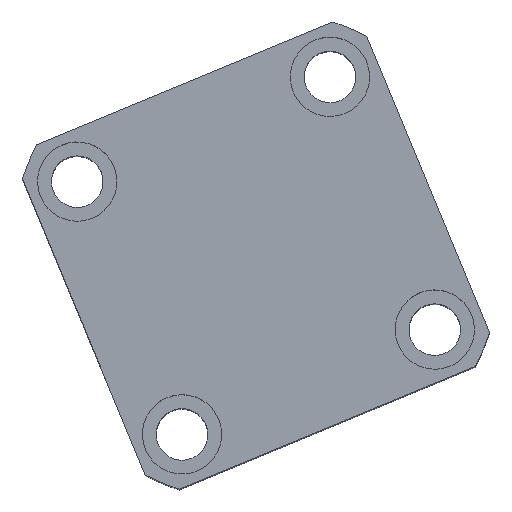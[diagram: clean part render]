
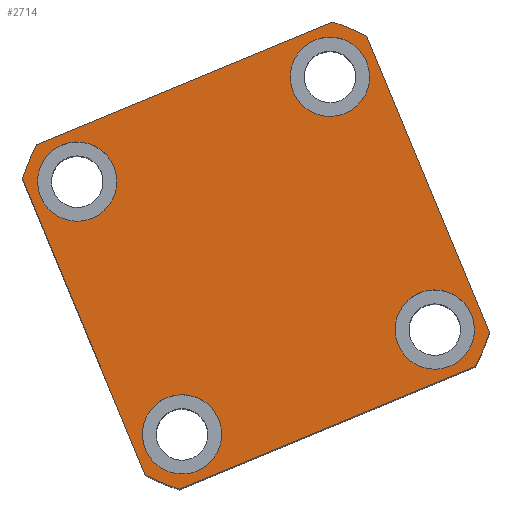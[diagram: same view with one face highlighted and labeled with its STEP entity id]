
A CAD part, top view. The second image highlights one B-rep face of the part: STEP entity #2714.
In plain terms, the highlighted planar face has unit normal (0, 0, 1) as drawn and (0, 0, -1) by its records, which use the part's own axes.
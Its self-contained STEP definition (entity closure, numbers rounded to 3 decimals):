
#97 = DIRECTION ( 'NONE',  ( -1., 0., 0. ) ) ;
#162 = CIRCLE ( 'NONE', #1010, 62. ) ;
#633 = CARTESIAN_POINT ( 'NONE',  ( -34.5, -34.5, 0. ) ) ;
#745 = DIRECTION ( 'NONE',  ( 0., -1., 0. ) ) ;
#1010 = AXIS2_PLACEMENT_3D ( 'NONE', #12218, #1881, #13950 ) ;
#1214 = DIRECTION ( 'NONE',  ( -1., 0., 0. ) ) ;
#1273 = ORIENTED_EDGE ( 'NONE', *, *, #15242, .F. ) ;
#1480 = FACE_OUTER_BOUND ( 'NONE', #1895, .T. ) ;
#1574 = DIRECTION ( 'NONE',  ( 0., 0., -1. ) ) ;
#1588 = CARTESIAN_POINT ( 'NONE',  ( -47., 47., 0. ) ) ;
#1599 = CARTESIAN_POINT ( 'NONE',  ( -24.5, -34.5, 0. ) ) ;
#1732 = EDGE_CURVE ( 'NONE', #11434, #14316, #8525, .T. ) ;
#1741 = AXIS2_PLACEMENT_3D ( 'NONE', #15357, #7074, #19138 ) ;
#1881 = DIRECTION ( 'NONE',  ( 0., 0., 1. ) ) ;
#1895 = EDGE_LOOP ( 'NONE', ( #4155, #18653, #7302, #1273, #8360, #21386, #13056, #10342 ) ) ;
#1911 = AXIS2_PLACEMENT_3D ( 'NONE', #4722, #16787, #6459 ) ;
#2026 = FACE_BOUND ( 'NONE', #7774, .T. ) ;
#2042 = CIRCLE ( 'NONE', #17713, 10. ) ;
#2374 = DIRECTION ( 'NONE',  ( -1., 0., 0. ) ) ;
#2714 = ADVANCED_FACE ( 'NONE', ( #2026, #15235, #11188, #6086, #1480 ), #17406, .F. ) ;
#2990 = VERTEX_POINT ( 'NONE', #19731 ) ;
#3134 = EDGE_CURVE ( 'NONE', #20851, #21237, #13617, .T. ) ;
#3341 = DIRECTION ( 'NONE',  ( -1., 0., 0. ) ) ;
#3683 = DIRECTION ( 'NONE',  ( -1., 0., 0. ) ) ;
#3828 = CARTESIAN_POINT ( 'NONE',  ( 34.5, 34.5, 0. ) ) ;
#3870 = VECTOR ( 'NONE', #3341, 1000. ) ;
#4155 = ORIENTED_EDGE ( 'NONE', *, *, #16515, .F. ) ;
#4315 = DIRECTION ( 'NONE',  ( 0., 1., 0. ) ) ;
#4437 = EDGE_LOOP ( 'NONE', ( #11016, #9978 ) ) ;
#4493 = DIRECTION ( 'NONE',  ( 0., 0., -1. ) ) ;
#4671 = CIRCLE ( 'NONE', #11881, 62. ) ;
#4672 = EDGE_CURVE ( 'NONE', #13772, #12969, #9039, .T. ) ;
#4722 = CARTESIAN_POINT ( 'NONE',  ( 34.5, 34.5, 0. ) ) ;
#4857 = EDGE_CURVE ( 'NONE', #12409, #9898, #13062, .T. ) ;
#4972 = ORIENTED_EDGE ( 'NONE', *, *, #4857, .F. ) ;
#4986 = CARTESIAN_POINT ( 'NONE',  ( 24.5, -34.5, 0. ) ) ;
#5002 = VERTEX_POINT ( 'NONE', #4986 ) ;
#5193 = EDGE_LOOP ( 'NONE', ( #6091, #4972 ) ) ;
#5754 = AXIS2_PLACEMENT_3D ( 'NONE', #3828, #7062, #3683 ) ;
#5958 = DIRECTION ( 'NONE',  ( 1., 0., 0. ) ) ;
#6086 = FACE_BOUND ( 'NONE', #5193, .T. ) ;
#6091 = ORIENTED_EDGE ( 'NONE', *, *, #20623, .F. ) ;
#6139 = CIRCLE ( 'NONE', #8001, 10. ) ;
#6155 = CARTESIAN_POINT ( 'NONE',  ( -34.5, -34.5, 0. ) ) ;
#6229 = AXIS2_PLACEMENT_3D ( 'NONE', #18323, #7990, #20064 ) ;
#6329 = DIRECTION ( 'NONE',  ( 0., 0., 1. ) ) ;
#6459 = DIRECTION ( 'NONE',  ( -1., 0., 0. ) ) ;
#6814 = EDGE_CURVE ( 'NONE', #14316, #11434, #11946, .T. ) ;
#7062 = DIRECTION ( 'NONE',  ( 0., 0., -1. ) ) ;
#7074 = DIRECTION ( 'NONE',  ( 0., 0., 1. ) ) ;
#7272 = AXIS2_PLACEMENT_3D ( 'NONE', #633, #12697, #2374 ) ;
#7302 = ORIENTED_EDGE ( 'NONE', *, *, #20709, .F. ) ;
#7517 = EDGE_CURVE ( 'NONE', #21237, #20851, #7634, .T. ) ;
#7634 = CIRCLE ( 'NONE', #7272, 10. ) ;
#7774 = EDGE_LOOP ( 'NONE', ( #11364, #9555 ) ) ;
#7843 = EDGE_CURVE ( 'NONE', #18394, #16270, #4671, .T. ) ;
#7878 = DIRECTION ( 'NONE',  ( -1., 0., 0. ) ) ;
#7990 = DIRECTION ( 'NONE',  ( 0., 0., 1. ) ) ;
#8001 = AXIS2_PLACEMENT_3D ( 'NONE', #20783, #10416, #97 ) ;
#8055 = VERTEX_POINT ( 'NONE', #15363 ) ;
#8258 = LINE ( 'NONE', #14619, #16892 ) ;
#8299 = CIRCLE ( 'NONE', #18835, 10. ) ;
#8360 = ORIENTED_EDGE ( 'NONE', *, *, #7843, .F. ) ;
#8525 = CIRCLE ( 'NONE', #5754, 10. ) ;
#9039 = CIRCLE ( 'NONE', #6229, 62. ) ;
#9120 = VERTEX_POINT ( 'NONE', #16985 ) ;
#9124 = VERTEX_POINT ( 'NONE', #20463 ) ;
#9151 = EDGE_CURVE ( 'NONE', #20030, #13772, #17629, .T. ) ;
#9555 = ORIENTED_EDGE ( 'NONE', *, *, #7517, .F. ) ;
#9686 = AXIS2_PLACEMENT_3D ( 'NONE', #11895, #1574, #13635 ) ;
#9898 = VERTEX_POINT ( 'NONE', #9904 ) ;
#9904 = CARTESIAN_POINT ( 'NONE',  ( -44.5, 34.5, 0. ) ) ;
#9963 = CARTESIAN_POINT ( 'NONE',  ( 0., 0., 0. ) ) ;
#9978 = ORIENTED_EDGE ( 'NONE', *, *, #6814, .F. ) ;
#10342 = ORIENTED_EDGE ( 'NONE', *, *, #9151, .F. ) ;
#10416 = DIRECTION ( 'NONE',  ( 0., 0., -1. ) ) ;
#10660 = CIRCLE ( 'NONE', #15821, 62. ) ;
#10682 = VECTOR ( 'NONE', #5958, 1000. ) ;
#11016 = ORIENTED_EDGE ( 'NONE', *, *, #1732, .F. ) ;
#11188 = FACE_BOUND ( 'NONE', #4437, .T. ) ;
#11364 = ORIENTED_EDGE ( 'NONE', *, *, #3134, .F. ) ;
#11434 = VERTEX_POINT ( 'NONE', #14638 ) ;
#11542 = DIRECTION ( 'NONE',  ( 0., 0., -1. ) ) ;
#11694 = DIRECTION ( 'NONE',  ( 1., 0., 0. ) ) ;
#11881 = AXIS2_PLACEMENT_3D ( 'NONE', #16661, #6329, #18384 ) ;
#11895 = CARTESIAN_POINT ( 'NONE',  ( -34.5, 34.5, 0. ) ) ;
#11946 = CIRCLE ( 'NONE', #1911, 10. ) ;
#12089 = CARTESIAN_POINT ( 'NONE',  ( -40.435, 47., 0. ) ) ;
#12155 = EDGE_LOOP ( 'NONE', ( #16032, #18282 ) ) ;
#12218 = CARTESIAN_POINT ( 'NONE',  ( 0., 0., 0. ) ) ;
#12409 = VERTEX_POINT ( 'NONE', #14017 ) ;
#12697 = DIRECTION ( 'NONE',  ( 0., 0., -1. ) ) ;
#12969 = VERTEX_POINT ( 'NONE', #20268 ) ;
#13056 = ORIENTED_EDGE ( 'NONE', *, *, #4672, .F. ) ;
#13062 = CIRCLE ( 'NONE', #9686, 10. ) ;
#13184 = CARTESIAN_POINT ( 'NONE',  ( 44.5, 34.5, 0. ) ) ;
#13273 = EDGE_CURVE ( 'NONE', #5002, #2990, #8299, .T. ) ;
#13578 = CARTESIAN_POINT ( 'NONE',  ( -44.5, -34.5, 0. ) ) ;
#13617 = CIRCLE ( 'NONE', #17942, 10. ) ;
#13635 = DIRECTION ( 'NONE',  ( -1., 0., 0. ) ) ;
#13745 = EDGE_CURVE ( 'NONE', #2990, #5002, #6139, .T. ) ;
#13772 = VERTEX_POINT ( 'NONE', #12089 ) ;
#13950 = DIRECTION ( 'NONE',  ( 1., 0., 0. ) ) ;
#14017 = CARTESIAN_POINT ( 'NONE',  ( -24.5, 34.5, 0. ) ) ;
#14316 = VERTEX_POINT ( 'NONE', #13184 ) ;
#14619 = CARTESIAN_POINT ( 'NONE',  ( 47., 47., 0. ) ) ;
#14638 = CARTESIAN_POINT ( 'NONE',  ( 24.5, 34.5, 0. ) ) ;
#14672 = CARTESIAN_POINT ( 'NONE',  ( 40.435, 47., 0. ) ) ;
#14797 = CARTESIAN_POINT ( 'NONE',  ( 34.5, -34.5, 0. ) ) ;
#15235 = FACE_BOUND ( 'NONE', #12155, .T. ) ;
#15242 = EDGE_CURVE ( 'NONE', #16270, #8055, #15835, .T. ) ;
#15357 = CARTESIAN_POINT ( 'NONE',  ( 0., 0., 0. ) ) ;
#15363 = CARTESIAN_POINT ( 'NONE',  ( 40.435, -47., 0. ) ) ;
#15821 = AXIS2_PLACEMENT_3D ( 'NONE', #9963, #22058, #11694 ) ;
#15835 = LINE ( 'NONE', #18087, #10682 ) ;
#16032 = ORIENTED_EDGE ( 'NONE', *, *, #13273, .F. ) ;
#16270 = VERTEX_POINT ( 'NONE', #20074 ) ;
#16515 = EDGE_CURVE ( 'NONE', #9120, #20030, #162, .T. ) ;
#16556 = DIRECTION ( 'NONE',  ( -1., 0., 0. ) ) ;
#16661 = CARTESIAN_POINT ( 'NONE',  ( 0., 0., 0. ) ) ;
#16787 = DIRECTION ( 'NONE',  ( 0., 0., -1. ) ) ;
#16846 = EDGE_CURVE ( 'NONE', #9124, #9120, #8258, .T. ) ;
#16892 = VECTOR ( 'NONE', #4315, 1000. ) ;
#16985 = CARTESIAN_POINT ( 'NONE',  ( 47., 40.435, 0. ) ) ;
#17406 = PLANE ( 'NONE',  #1741 ) ;
#17629 = LINE ( 'NONE', #1588, #3870 ) ;
#17713 = AXIS2_PLACEMENT_3D ( 'NONE', #21899, #11542, #1214 ) ;
#17942 = AXIS2_PLACEMENT_3D ( 'NONE', #6155, #18218, #7878 ) ;
#17962 = LINE ( 'NONE', #19821, #22006 ) ;
#18087 = CARTESIAN_POINT ( 'NONE',  ( -47., -47., 0. ) ) ;
#18218 = DIRECTION ( 'NONE',  ( 0., 0., -1. ) ) ;
#18282 = ORIENTED_EDGE ( 'NONE', *, *, #13745, .F. ) ;
#18323 = CARTESIAN_POINT ( 'NONE',  ( 0., 0., 0. ) ) ;
#18384 = DIRECTION ( 'NONE',  ( 1., 0., 0. ) ) ;
#18394 = VERTEX_POINT ( 'NONE', #20525 ) ;
#18653 = ORIENTED_EDGE ( 'NONE', *, *, #16846, .F. ) ;
#18835 = AXIS2_PLACEMENT_3D ( 'NONE', #14797, #4493, #16556 ) ;
#19138 = DIRECTION ( 'NONE',  ( 1., 0., 0. ) ) ;
#19731 = CARTESIAN_POINT ( 'NONE',  ( 44.5, -34.5, 0. ) ) ;
#19821 = CARTESIAN_POINT ( 'NONE',  ( -47., 47., 0. ) ) ;
#20030 = VERTEX_POINT ( 'NONE', #14672 ) ;
#20064 = DIRECTION ( 'NONE',  ( 1., 0., 0. ) ) ;
#20074 = CARTESIAN_POINT ( 'NONE',  ( -40.435, -47., 0. ) ) ;
#20268 = CARTESIAN_POINT ( 'NONE',  ( -47., 40.435, 0. ) ) ;
#20463 = CARTESIAN_POINT ( 'NONE',  ( 47., -40.435, 0. ) ) ;
#20525 = CARTESIAN_POINT ( 'NONE',  ( -47., -40.435, 0. ) ) ;
#20623 = EDGE_CURVE ( 'NONE', #9898, #12409, #2042, .T. ) ;
#20709 = EDGE_CURVE ( 'NONE', #8055, #9124, #10660, .T. ) ;
#20783 = CARTESIAN_POINT ( 'NONE',  ( 34.5, -34.5, 0. ) ) ;
#20851 = VERTEX_POINT ( 'NONE', #13578 ) ;
#21237 = VERTEX_POINT ( 'NONE', #1599 ) ;
#21386 = ORIENTED_EDGE ( 'NONE', *, *, #21774, .F. ) ;
#21774 = EDGE_CURVE ( 'NONE', #12969, #18394, #17962, .T. ) ;
#21899 = CARTESIAN_POINT ( 'NONE',  ( -34.5, 34.5, 0. ) ) ;
#22006 = VECTOR ( 'NONE', #745, 1000. ) ;
#22058 = DIRECTION ( 'NONE',  ( 0., 0., 1. ) ) ;
